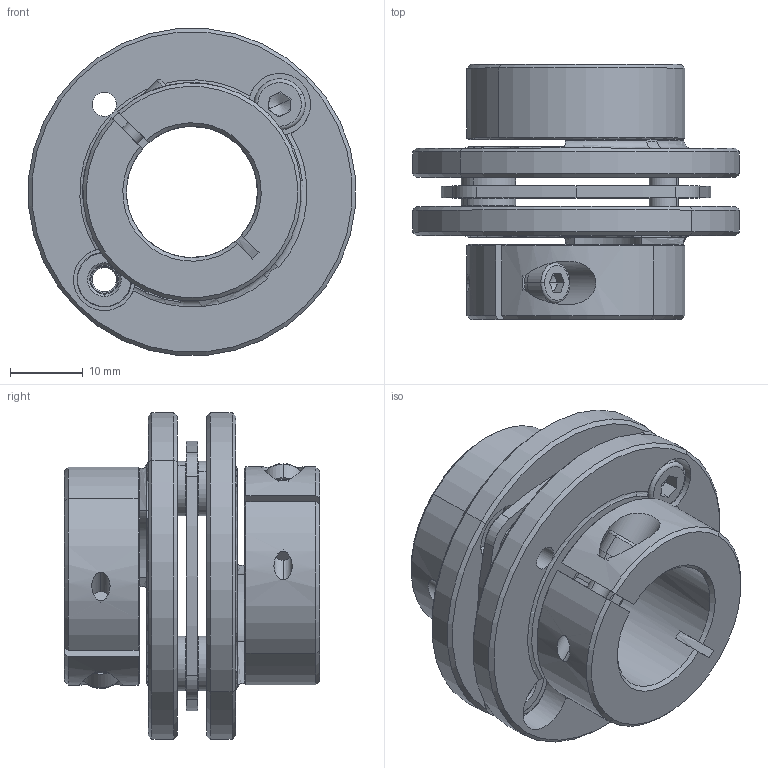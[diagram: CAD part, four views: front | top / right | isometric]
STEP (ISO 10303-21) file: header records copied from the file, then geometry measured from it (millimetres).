
FILE_DESCRIPTION (( 'STEP AP203' ), '1' );
FILE_NAME ('LE1-B-D45L35-18-18.STEP', '2021-11-01T03:21:07', ( '' ), ( '' ), 'SwSTEP 2.0', 'SolidWorks 2018', '' );
FILE_SCHEMA (( 'CONFIG_CONTROL_DESIGN' ));
Length unit declared in the file: millimetre
Products named in the file (1): LE1-B-D45L35-18-18
Bounding box: 44.83 x 35 x 44.83 mm (x, y, z)
Volume: 20717.3 mm3; surface area: 14569.6 mm2
Topology: 1 solids, 3 shells, 311 faces, 775 edges, 480 vertices
Faces by surface type: cylinder 115, plane 98, cone 82, torus 14, bspline 2
Entity records: 9750 total; most frequent: CARTESIAN_POINT 2009, DIRECTION 1741, ORIENTED_EDGE 1534, EDGE_CURVE 767, AXIS2_PLACEMENT_3D 712, VERTEX_POINT 480, CIRCLE 402, EDGE_LOOP 363
